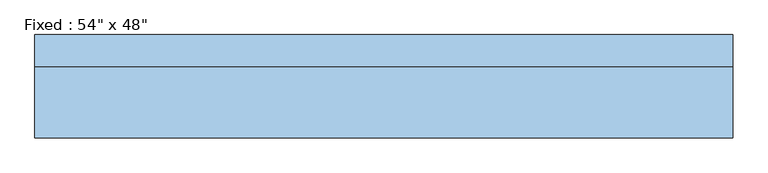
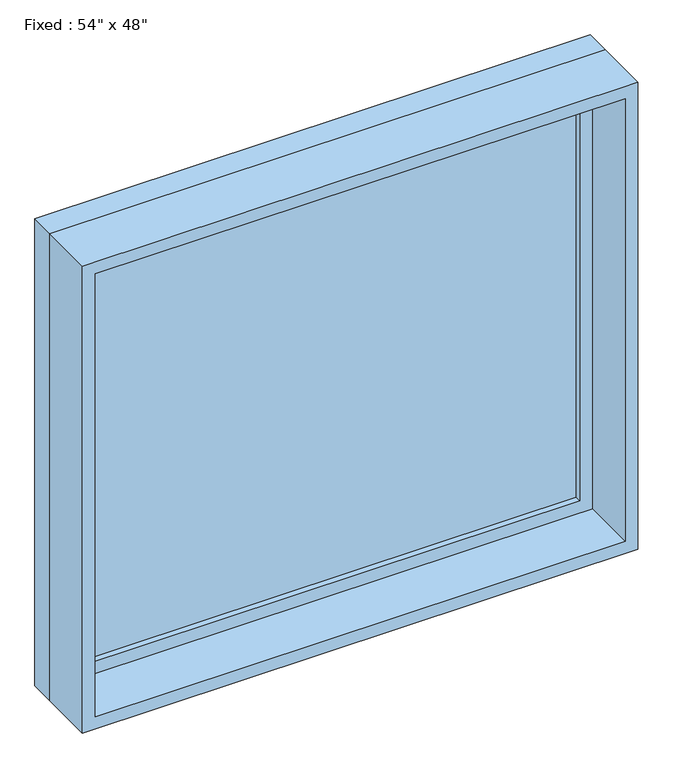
"""IFC4 building model written with IfcOpenShell, lengths in millimetres: window geometry."""

import ifcopenshell
import ifcopenshell.guid

model = None  # the IFC model being written
_history = None  # IfcOwnerHistory: only IFC2X3 demands one
_inside = {}  # id of a spatial element -> (the spatial element, [elements in it])
_under = {}  # id of a project, library or spatial element -> (it, [spatial elements below it])
_declared = {}  # id of a project -> (the project, [libraries it declares])
_typed = {}  # id of a type object -> (the type object, [elements of that type])
_made_of = {}  # id of a material, layer set ... -> (it, [elements and type objects made of it])


def new_model(schema):
    """Start an empty IFC model of exactly this schema.

    Asked for "IFC4X3", IfcOpenShell would pick the latest addendum, in which some entities
    have other attributes; the version numbers below select the first issue.
    IFC2X3 requires an IfcOwnerHistory on every rooted entity: one is made here for all.
    """
    global model, _history
    if schema == "IFC4X3":
        model = ifcopenshell.file(schema_version=(4, 3, 0, 0))
    else:
        model = ifcopenshell.file(schema=schema)
    _inside.clear()
    _under.clear()
    _declared.clear()
    _typed.clear()
    _made_of.clear()
    _history = None
    if model.schema == "IFC2X3":
        org = make("IfcOrganization", Name="unknown")
        user = make(
            "IfcPersonAndOrganization",
            ThePerson=make("IfcPerson", FamilyName="unknown"),
            TheOrganization=org,
        )
        app = make(
            "IfcApplication",
            ApplicationDeveloper=org,
            Version="unknown",
            ApplicationFullName="unknown",
            ApplicationIdentifier="unknown",
        )
        _history = make(
            "IfcOwnerHistory",
            OwningUser=user,
            OwningApplication=app,
            ChangeAction="ADDED",
            CreationDate=0,
        )
    return model


def make(cls, **values):
    """One entity of the class cls with the attributes given. An attribute that is None is left unset."""
    return model.create_entity(
        cls, **{name: value for name, value in values.items() if value is not None}
    )


def rooted(cls, **values):
    """An entity with a GlobalId (a new one), such as an element, a storey or a relation."""
    return make(cls, GlobalId=ifcopenshell.guid.new(), OwnerHistory=_history, **values)


def si_unit(unit_type, name, prefix=None):
    """IfcSIUnit, for example si_unit("LENGTHUNIT", "METRE", prefix="MILLI")."""
    return make("IfcSIUnit", UnitType=unit_type, Prefix=prefix, Name=name)


def assignment(units):
    """IfcUnitAssignment: the units of a project."""
    return None if units is None else make("IfcUnitAssignment", Units=units)


def point(xyz):
    """IfcCartesianPoint."""
    return None if xyz is None else make("IfcCartesianPoint", Coordinates=xyz)


def direction(xyz):
    """IfcDirection."""
    return None if xyz is None else make("IfcDirection", DirectionRatios=xyz)


def frame(location, z_axis=None, x_axis=None):
    """IfcAxis2Placement3D, a coordinate frame: its origin and axes. An axis left out is left unset."""
    return make(
        "IfcAxis2Placement3D",
        Location=point(location),
        Axis=direction(z_axis),
        RefDirection=direction(x_axis),
    )


def origin():
    """The frame at (0, 0, 0) with its axes left unset."""
    return frame((0.0, 0.0, 0.0))


def place(relative_to, where):
    """IfcLocalPlacement: puts the frame where relative to a parent placement (None: the world)."""
    return make(
        "IfcLocalPlacement", PlacementRelTo=relative_to, RelativePlacement=where
    )


def context(
    kind, dimensions, precision=None, world=None, true_north=None, identifier=None
):
    """IfcGeometricRepresentationContext, for example the 3D "Model" context."""
    return make(
        "IfcGeometricRepresentationContext",
        ContextIdentifier=identifier,
        ContextType=kind,
        CoordinateSpaceDimension=dimensions,
        Precision=precision,
        WorldCoordinateSystem=world,
        TrueNorth=true_north,
    )


def project(units=None, contexts=None):
    """IfcProject with its units and contexts."""
    return rooted(
        "IfcProject",
        Name="project",
        RepresentationContexts=contexts,
        UnitsInContext=assignment(units),
    )


def spatial(cls, under=None, at=None, **own):
    """A site, building, storey or space (cls), placed at a placement, below another one or the project."""
    s = rooted(cls, ObjectPlacement=at, **own)
    if under is not None:
        _under.setdefault(under.id(), (under, []))[1].append(s)
    return s


def polyline(points):
    """IfcPolyline through the points."""
    return make("IfcPolyline", Points=[point(p) for p in points])


def outline(outer, holes=None, kind="AREA"):
    """IfcArbitraryClosedProfileDef: a profile drawn as a closed curve; with holes, ...WithVoids."""
    if holes is None:
        return make("IfcArbitraryClosedProfileDef", ProfileType=kind, OuterCurve=outer)
    return make(
        "IfcArbitraryProfileDefWithVoids",
        ProfileType=kind,
        OuterCurve=outer,
        InnerCurves=holes,
    )


def extrude(swept, where, along, depth):
    """IfcExtrudedAreaSolid: the profile swept, set in the frame where, extruded along a direction by depth."""
    return make(
        "IfcExtrudedAreaSolid",
        SweptArea=swept,
        Position=where,
        ExtrudedDirection=direction(along),
        Depth=depth,
    )


def shape(context_of_items, identifier, shape_type, items):
    """IfcShapeRepresentation: the items that make up one representation, for example the "Body"."""
    return make(
        "IfcShapeRepresentation",
        ContextOfItems=context_of_items,
        RepresentationIdentifier=identifier,
        RepresentationType=shape_type,
        Items=items,
    )


def source(mapping_origin, context_of_items, identifier, shape_type, items):
    """IfcRepresentationMap: a shape defined once, which mapped items show again and again."""
    return make(
        "IfcRepresentationMap",
        MappingOrigin=mapping_origin,
        MappedRepresentation=shape(context_of_items, identifier, shape_type, items),
    )


def transform(
    local_origin,
    x_axis=None,
    y_axis=None,
    z_axis=None,
    scale=None,
    scale2=None,
    scale3=None,
    uniform=True,
):
    """IfcCartesianTransformationOperator3D, or its non-uniform kind. x_axis, y_axis, z_axis: its Axis1, 2, 3."""
    if uniform:
        return make(
            "IfcCartesianTransformationOperator3D",
            Axis1=direction(x_axis),
            Axis2=direction(y_axis),
            LocalOrigin=point(local_origin),
            Scale=scale,
            Axis3=direction(z_axis),
        )
    return make(
        "IfcCartesianTransformationOperator3DnonUniform",
        Axis1=direction(x_axis),
        Axis2=direction(y_axis),
        LocalOrigin=point(local_origin),
        Scale=scale,
        Axis3=direction(z_axis),
        Scale2=scale2,
        Scale3=scale3,
    )


def mapped(mapping_source, mapping_target):
    """IfcMappedItem: shows the shape of a source again, moved by a transform."""
    return make(
        "IfcMappedItem", MappingSource=mapping_source, MappingTarget=mapping_target
    )


def made_of(thing, what):
    """Note that an element or type object is made of a material, layer set ...; save() writes the relation."""
    if what is not None:
        _made_of.setdefault(what.id(), (what, []))[1].append(thing)
    return thing


def element(
    cls,
    number,
    at=None,
    inside=None,
    cuts=None,
    type_object=None,
    material=None,
    context=None,
    identifier="Body",
    shape_type=None,
    held_by="IfcProductDefinitionShape",
    body=None,
    shapes=None,
    **own,
):
    """One element of the class cls, such as IfcWall. Its Tag is "e" and its number.

    at: its placement. inside: the storey or other place that contains it. cuts: it is an
    opening in that element (IfcRelVoidsElement). A single representation is given by context,
    identifier, shape_type and body (its items); several are given by shapes. held_by: the class
    of the entity that holds the representations. save() writes the other relations.
    """
    e = rooted(cls, Tag="e%d" % number, ObjectPlacement=at, **own)
    if body is not None:
        shapes = [shape(context, identifier, shape_type, body)]
    if shapes is not None:
        e.Representation = make(held_by, Representations=shapes)
    if inside is not None:
        _inside.setdefault(inside.id(), (inside, []))[1].append(e)
    if cuts is not None:
        rooted(
            "IfcRelVoidsElement", RelatingBuildingElement=cuts, RelatedOpeningElement=e
        )
    if type_object is not None:
        _typed.setdefault(type_object.id(), (type_object, []))[1].append(e)
    return made_of(e, material)


def aggregate(whole, parts):
    """IfcRelAggregates: a whole, such as a stair, and the parts it consists of."""
    return rooted("IfcRelAggregates", RelatingObject=whole, RelatedObjects=parts)


def save(model, path):
    """Write the relations noted so far, then the file.

    IfcRelAggregates (storeys below a building ...), IfcRelContainedInSpatialStructure (elements
    in a storey), IfcRelDefinesByType, IfcRelAssociatesMaterial and IfcRelDeclares: one each for
    every whole, place, type object, material and project.
    """
    for whole, parts in _under.values():
        aggregate(whole, parts)
    for where, things in _inside.values():
        rooted(
            "IfcRelContainedInSpatialStructure",
            RelatedElements=things,
            RelatingStructure=where,
        )
    for kind, things in _typed.values():
        rooted("IfcRelDefinesByType", RelatedObjects=things, RelatingType=kind)
    for what, things in _made_of.values():
        rooted("IfcRelAssociatesMaterial", RelatedObjects=things, RelatingMaterial=what)
    for by, libraries in _declared.values():
        rooted("IfcRelDeclares", RelatingContext=by, RelatedDefinitions=libraries)
    model.write(path)


def window_6106e9d8(model_context):
    return source(origin(), model_context, "Body", "SweptSolid", [
        extrude(outline(polyline([(584.2, 53.975), (-660.4, 53.975), (-660.4, 66.675), (584.2, 66.675), (584.2, 53.975)])), frame((0.0, 0.0, 977.9), z_axis=(0.0, 0.0, 1.0), x_axis=(1.0, 0.0, 0.0)), (0.0, 0.0, 1.0), 1092.2),
        extrude(outline(polyline([(2114.55, -704.85), (933.45, -704.85), (933.45, 628.65), (2114.55, 628.65), (2114.55, -704.85)]), holes=[polyline([(2070.1, -660.4), (2070.1, 584.2), (977.9, 584.2), (977.9, -660.4), (2070.1, -660.4)])]), frame((0.0, 38.1, 0.0), z_axis=(0.0, 1.0, 0.0), x_axis=(0.0, 0.0, 1.0)), (0.0, 0.0, 1.0), 44.45),
        extrude(outline(polyline([(2133.6, -723.9), (914.4, -723.9), (914.4, 647.7), (2133.6, 647.7), (2133.6, -723.9)]), holes=[polyline([(2101.85, -692.15), (2101.85, 615.95), (946.15, 615.95), (946.15, -692.15), (2101.85, -692.15)])]), frame((0.0, -101.6, 0.0), z_axis=(0.0, 1.0, 0.0), x_axis=(0.0, 0.0, 1.0)), (0.0, 0.0, 1.0), 139.7),
        extrude(outline(polyline([(2133.6, 647.7), (2133.6, -723.9), (914.4, -723.9), (914.4, 647.7), (2133.6, 647.7)]), holes=[polyline([(2114.55, 628.65), (933.45, 628.65), (933.45, -704.85), (2114.55, -704.85), (2114.55, 628.65)])]), frame((0.0, 38.1, 0.0), z_axis=(0.0, 1.0, 0.0), x_axis=(0.0, 0.0, 1.0)), (0.0, 0.0, 1.0), 63.5),
    ])


if __name__ == "__main__":
    model = new_model("IFC4")
    model_context = context("Model", 3, world=origin())
    ifc_project = project(units=[si_unit("LENGTHUNIT", "METRE", prefix="MILLI")], contexts=[model_context])
    site = spatial("IfcSite", under=ifc_project)
    building = spatial("IfcBuilding", under=site)
    placement = place(None, origin())
    window_shape = window_6106e9d8(model_context)
    element("IfcWindow", 1, ObjectType="Fixed : 54\" x 48\"", at=placement, inside=building, context=model_context, shape_type="MappedRepresentation", body=[
        mapped(window_shape, transform((0.0, 0.0, 0.0), x_axis=(1.0, 0.0, 0.0), y_axis=(0.0, 1.0, 0.0), z_axis=(0.0, 0.0, 1.0))),
    ])
    save(model, "model.ifc")
